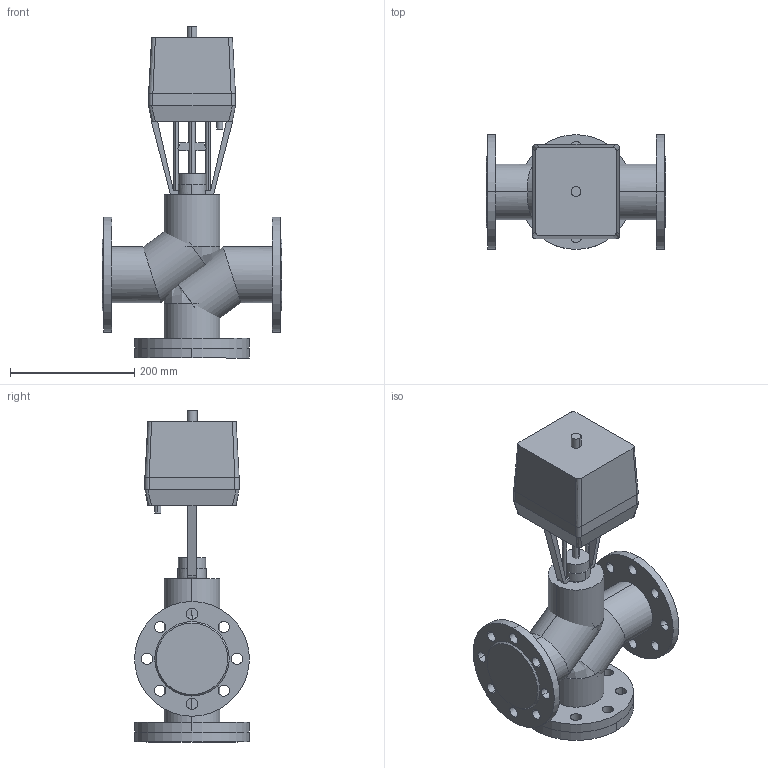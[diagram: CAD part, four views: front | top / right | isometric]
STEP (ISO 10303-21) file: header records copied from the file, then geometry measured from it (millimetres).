
FILE_DESCRIPTION(/* description */ (''),/* implementation_level */ '2;1');
FILE_NAME(/* name */ 'ТРК DN65 PN 1.6 МПа VTM-i 2000H',/* time_stamp */ '2026-07-14T23:24:02+03:00',/* author */ (''),/* organization */ (''),/* preprocessor_version */ 'ST-DEVELOPER v20',/* originating_system */ '',/* authorisation */ '');
FILE_SCHEMA (('AP242_MANAGED_MODEL_BASED_3D_ENGINEERING_MIM_LF { 1 0 10303 442 1 1 4 }'));
Length unit declared in the file: millimetre
Products named in the file (14): TopLevelAssembly; Выдавливание; Модификатор; Модификатор_1; Выдавливание_
1; Выдавливание_
2; Вращение; Выдавливание_
3; Выдавливание_
4; 1600; Переход; Объемная геометрия 
присоединена; Полый Выдавливание; Объемная геометрия 
присоединена_1
Assembly tree (13 placements, depth 2):
  TopLevelAssembly
    Выдавливание
    Модификатор
    Модификатор_1
    Выдавливание_
1
    Выдавливание_
2
    Вращение
    Выдавливание_
3
    Выдавливание_
4
    1600
    Переход
    Объемная геометрия 
присоединена
    Полый Выдавливание
    Объемная геометрия 
присоединена_1
Bounding box: 290 x 185 x 535 mm (x, y, z)
Volume: 7710999.1 mm3; surface area: 731104 mm2
Topology: 21 solids, 21 shells, 190 faces, 444 edges, 292 vertices
Faces by surface type: cylinder 96, plane 78, bspline 12, cone 4
Entity records: 6279 total; most frequent: CARTESIAN_POINT 1225, DIRECTION 1074, ORIENTED_EDGE 872, EDGE_CURVE 436, AXIS2_PLACEMENT_3D 433, VERTEX_POINT 292, EDGE_LOOP 248, CIRCLE 220
